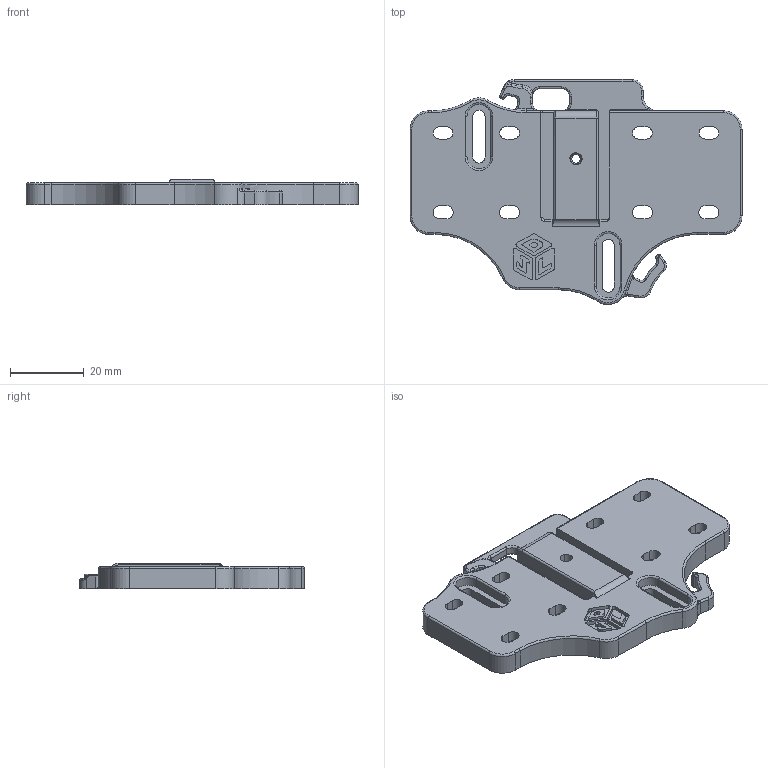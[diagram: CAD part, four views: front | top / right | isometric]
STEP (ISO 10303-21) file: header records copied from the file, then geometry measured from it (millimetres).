
FILE_DESCRIPTION(('CATIA V5 STEP Exchange'),'2;1');
FILE_NAME('E:\Dropbox\3D Printer Fan Duct Designs\1.) Artillery Sidewinder X1\3D Models\5015 Double Ducts\VOLCANO\Volcano ALL Step Files\Insert\Mounting Bracket Insert.stp','2021-03-06T11:26:33+00:00',('none'),('none'),'CATIA Version 5 Release 20 SP 1 (IN-10)','CATIA V5 STEP AP214','none');
FILE_SCHEMA(('AUTOMOTIVE_DESIGN { 1 0 10303 214 1 1 1 1 }'));
Length unit declared in the file: millimetre
Products named in the file (1): ADATTATORE_Z_DOPPIA_5015
Bounding box: 90 x 60.99 x 7 mm (x, y, z)
Volume: 20499.2 mm3; surface area: 11381.5 mm2
Topology: 2 solids, 2 shells, 903 faces, 2353 edges, 1462 vertices
Faces by surface type: bspline 365, cylinder 231, plane 223, torus 60, extrusion 10, cone 9, sphere 5
Entity records: 27912 total; most frequent: CARTESIAN_POINT 10372, ORIENTED_EDGE 4680, EDGE_CURVE 2340, DIRECTION 2212, VERTEX_POINT 1462, EDGE_LOOP 950, AXIS2_PLACEMENT_3D 910, ADVANCED_FACE 903
